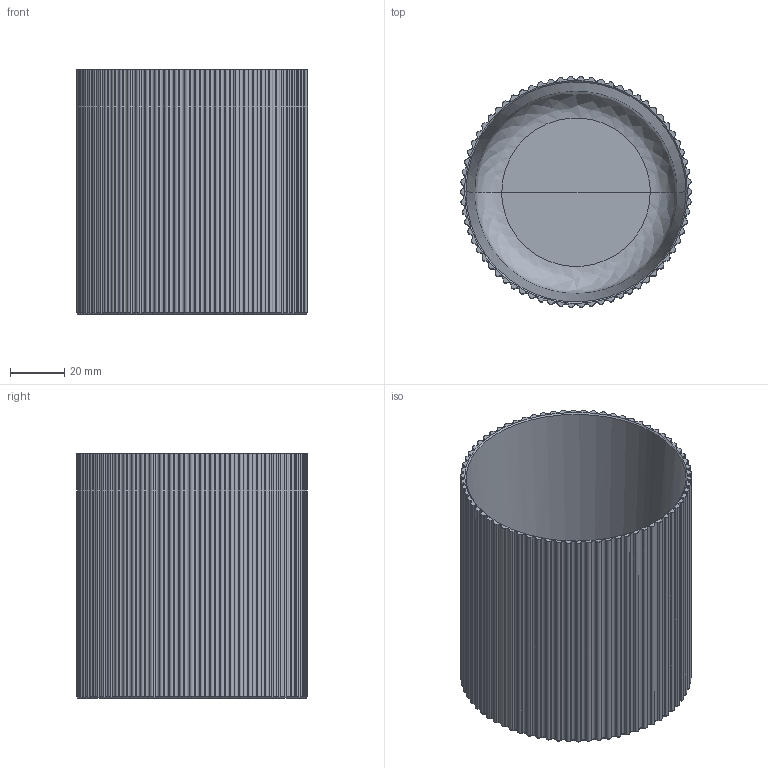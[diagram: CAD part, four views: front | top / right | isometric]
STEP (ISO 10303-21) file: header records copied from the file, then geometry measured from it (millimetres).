
FILE_DESCRIPTION(/* description */ (''),/* implementation_level */ '2;1');
FILE_NAME(/* name */ 'Ripple tumbler glass_3D',/* time_stamp */ '2025-07-29T11:21:39+02:00',/* author */ (''),/* organization */ (''),/* preprocessor_version */ 'ST-DEVELOPER v16.5',/* originating_system */ 'Rhino 7.38',/* authorisation */ '');
FILE_SCHEMA (('CONFIG_CONTROL_DESIGN'));
Length unit declared in the file: millimetre
Products named in the file (1): Document
Bounding box: 85 x 84.92 x 89.84 mm (x, y, z)
Volume: 180731.3 mm3; surface area: 54703.2 mm2
Topology: 1 solids, 1 shells, 570 faces, 1416 edges, 849 vertices
Faces by surface type: plane 284, bspline 146, cylinder 140
Entity records: 16016 total; most frequent: CARTESIAN_POINT 7001, ORIENTED_EDGE 2832, EDGE_CURVE 1416, VERTEX_POINT 849, B_SPLINE_CURVE_WITH_KNOTS 842, EDGE_LOOP 571, ADVANCED_FACE 570, FACE_OUTER_BOUND 570
